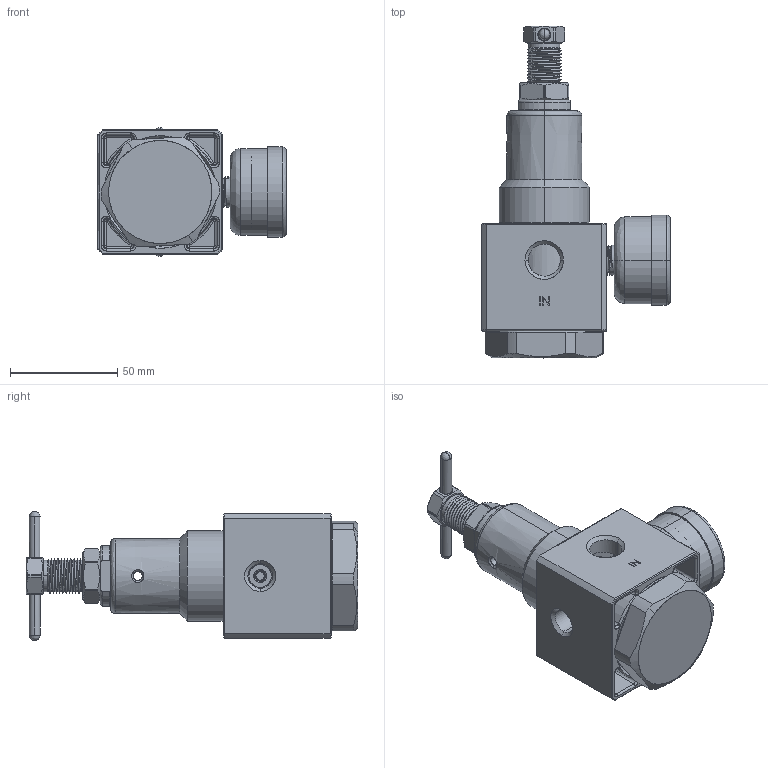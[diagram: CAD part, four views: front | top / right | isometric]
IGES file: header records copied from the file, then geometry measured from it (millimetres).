
Start section: SolidWorks IGES file using analytic representation for surfaces
Bounding box: 87.55 x 154.5 x 60 mm (x, y, z)
Surface area: 79207.2 mm2 (no closed solid volume)
Topology: 0 solids, 0 shells, 907 faces, 12721 edges, 12712 vertices
Faces by surface type: bspline 500, revolution 407
